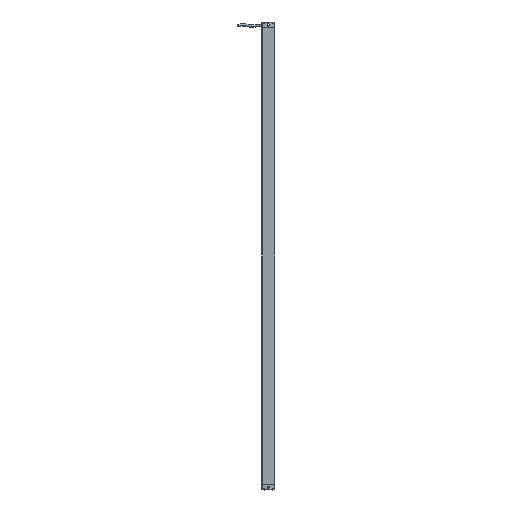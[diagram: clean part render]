
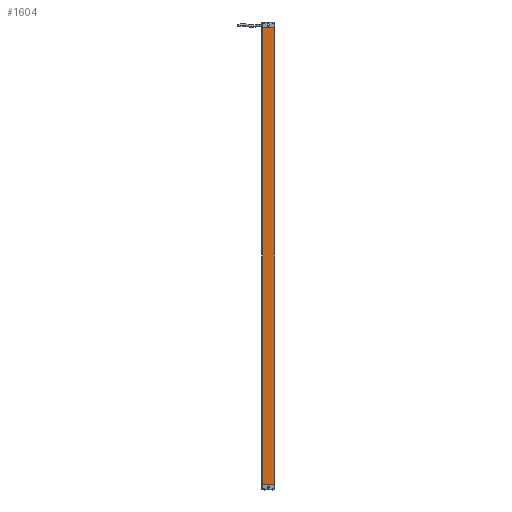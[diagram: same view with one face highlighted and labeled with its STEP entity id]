
A CAD part, front view. The second image highlights one B-rep face of the part: STEP entity #1604.
In plain terms, the highlighted planar face has unit normal (-0.001, -1, 0).
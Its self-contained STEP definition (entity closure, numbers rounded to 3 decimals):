
#1604=ADVANCED_FACE('',(#2720),#2349,.T.);
#2349=PLANE('',#14604);
#2720=FACE_OUTER_BOUND('',#3441,.T.);
#3441=EDGE_LOOP('',(#4477,#4478,#4479,#4480));
#4477=ORIENTED_EDGE('',*,*,#10104,.T.);
#4478=ORIENTED_EDGE('',*,*,#10057,.F.);
#4479=ORIENTED_EDGE('',*,*,#10102,.T.);
#4480=ORIENTED_EDGE('',*,*,#10105,.T.);
#8601=VERTEX_POINT('',#19896);
#8602=VERTEX_POINT('',#19898);
#8639=VERTEX_POINT('',#19987);
#8640=VERTEX_POINT('',#19991);
#10057=EDGE_CURVE('',#8601,#8602,#12174,.T.);
#10102=EDGE_CURVE('',#8601,#8639,#12205,.T.);
#10104=EDGE_CURVE('',#8640,#8602,#12206,.T.);
#10105=EDGE_CURVE('',#8639,#8640,#12207,.T.);
#12174=LINE('',#19897,#13389);
#12205=LINE('',#19986,#13420);
#12206=LINE('',#19990,#13421);
#12207=LINE('',#19992,#13422);
#13389=VECTOR('',#16033,1.);
#13420=VECTOR('',#16106,1.);
#13421=VECTOR('',#16111,1.);
#13422=VECTOR('',#16112,1.);
#14604=AXIS2_PLACEMENT_3D('',#19993,#16113,#16114);
#16033=DIRECTION('',(1.,-0.001,0.));
#16106=DIRECTION('',(0.,0.,-1.));
#16111=DIRECTION('',(0.,0.,1.));
#16112=DIRECTION('',(1.,-0.001,0.));
#16113=DIRECTION('',(-0.001,-1.,0.));
#16114=DIRECTION('',(1.,-0.001,0.));
#19896=CARTESIAN_POINT('',(53.048,-142.376,1160.376));
#19897=CARTESIAN_POINT('',(79.028,-142.395,1160.376));
#19898=CARTESIAN_POINT('',(79.028,-142.395,1160.376));
#19986=CARTESIAN_POINT('',(53.048,-142.376,543.376));
#19987=CARTESIAN_POINT('',(53.048,-142.376,198.376));
#19990=CARTESIAN_POINT('',(79.028,-142.395,198.376));
#19991=CARTESIAN_POINT('',(79.028,-142.395,198.376));
#19992=CARTESIAN_POINT('',(53.048,-142.376,198.376));
#19993=CARTESIAN_POINT('',(79.028,-142.395,543.376));
